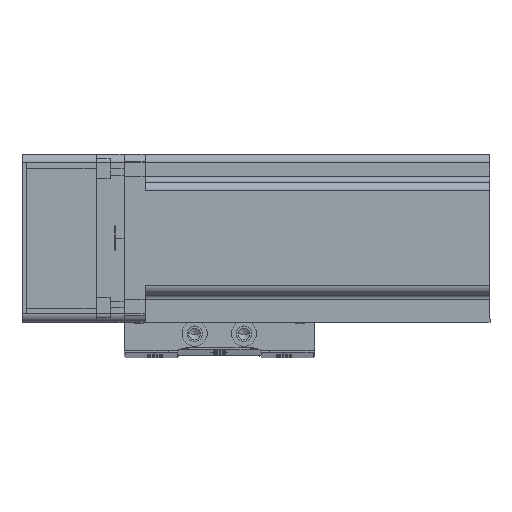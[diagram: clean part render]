
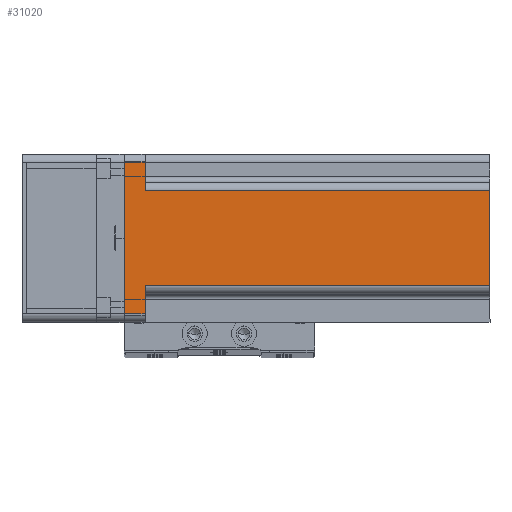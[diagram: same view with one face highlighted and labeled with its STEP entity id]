
A CAD part, top view. The second image highlights one B-rep face of the part: STEP entity #31020.
In plain terms, the highlighted planar face has unit normal (0, 0, 1) as drawn and (0, 1, 0) by its records, which use the part's own axes.
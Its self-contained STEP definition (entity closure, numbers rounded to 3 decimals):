
#77 = CARTESIAN_POINT ( 'NONE',  ( -17., 30., 130.7 ) ) ;
#607 = VERTEX_POINT ( 'NONE', #25944 ) ;
#916 = CARTESIAN_POINT ( 'NONE',  ( 27., 30., 130.7 ) ) ;
#1010 = DIRECTION ( 'NONE',  ( 0., -1., 0. ) ) ;
#1851 = VERTEX_POINT ( 'NONE', #35242 ) ;
#4163 = ORIENTED_EDGE ( 'NONE', *, *, #53394, .F. ) ;
#5723 = EDGE_LOOP ( 'NONE', ( #41719, #8354, #4163, #12482, #11422, #51591, #10312, #31493 ) ) ;
#8161 = DIRECTION ( 'NONE',  ( 1., 0., 0. ) ) ;
#8354 = ORIENTED_EDGE ( 'NONE', *, *, #46168, .T. ) ;
#8871 = EDGE_CURVE ( 'NONE', #46343, #40522, #55481, .T. ) ;
#9734 = VECTOR ( 'NONE', #24550, 1000. ) ;
#9810 = PLANE ( 'NONE',  #13856 ) ;
#10312 = ORIENTED_EDGE ( 'NONE', *, *, #53348, .T. ) ;
#11265 = EDGE_CURVE ( 'NONE', #49778, #22059, #37956, .T. ) ;
#11422 = ORIENTED_EDGE ( 'NONE', *, *, #40756, .F. ) ;
#12482 = ORIENTED_EDGE ( 'NONE', *, *, #11265, .T. ) ;
#13441 = CARTESIAN_POINT ( 'NONE',  ( 17., 30., 130.7 ) ) ;
#13856 = AXIS2_PLACEMENT_3D ( 'NONE', #27701, #1010, #32133 ) ;
#14310 = VECTOR ( 'NONE', #28470, 1000. ) ;
#17125 = DIRECTION ( 'NONE',  ( -1., 0., 0. ) ) ;
#18017 = CARTESIAN_POINT ( 'NONE',  ( -27., 30., 7.5 ) ) ;
#19749 = CARTESIAN_POINT ( 'NONE',  ( 27., 30., 7.5 ) ) ;
#20066 = CARTESIAN_POINT ( 'NONE',  ( -27., 30., 130.7 ) ) ;
#21290 = DIRECTION ( 'NONE',  ( -1., 0., 0. ) ) ;
#21472 = LINE ( 'NONE', #52839, #42219 ) ;
#22059 = VERTEX_POINT ( 'NONE', #54765 ) ;
#22458 = LINE ( 'NONE', #47858, #56420 ) ;
#23122 = LINE ( 'NONE', #34786, #46706 ) ;
#23437 = CARTESIAN_POINT ( 'NONE',  ( 27., 30., 0. ) ) ;
#24363 = VERTEX_POINT ( 'NONE', #18017 ) ;
#24550 = DIRECTION ( 'NONE',  ( 0., 0., 1. ) ) ;
#24886 = LINE ( 'NONE', #31079, #36640 ) ;
#25944 = CARTESIAN_POINT ( 'NONE',  ( -17., 30., 130.7 ) ) ;
#26466 = DIRECTION ( 'NONE',  ( -1., 0., 0. ) ) ;
#26946 = DIRECTION ( 'NONE',  ( 0., 0., 1. ) ) ;
#27701 = CARTESIAN_POINT ( 'NONE',  ( 30., 30., 130.7 ) ) ;
#28470 = DIRECTION ( 'NONE',  ( 0., 0., -1. ) ) ;
#30254 = EDGE_CURVE ( 'NONE', #24363, #1851, #23122, .T. ) ;
#31020 = ADVANCED_FACE ( 'NONE', ( #33361 ), #9810, .F. ) ;
#31079 = CARTESIAN_POINT ( 'NONE',  ( 30., 30., 130.7 ) ) ;
#31493 = ORIENTED_EDGE ( 'NONE', *, *, #34653, .T. ) ;
#32133 = DIRECTION ( 'NONE',  ( 1., 0., 0. ) ) ;
#33361 = FACE_OUTER_BOUND ( 'NONE', #5723, .T. ) ;
#34653 = EDGE_CURVE ( 'NONE', #48718, #24363, #56982, .T. ) ;
#34786 = CARTESIAN_POINT ( 'NONE',  ( -20., 30., 7.5 ) ) ;
#35242 = CARTESIAN_POINT ( 'NONE',  ( -17., 30., 7.5 ) ) ;
#36490 = DIRECTION ( 'NONE',  ( 0., 0., -1. ) ) ;
#36640 = VECTOR ( 'NONE', #26466, 1000. ) ;
#37178 = CARTESIAN_POINT ( 'NONE',  ( 17., 30., 130.7 ) ) ;
#37956 = LINE ( 'NONE', #37178, #14310 ) ;
#40522 = VERTEX_POINT ( 'NONE', #23437 ) ;
#40756 = EDGE_CURVE ( 'NONE', #46343, #22059, #22458, .T. ) ;
#41719 = ORIENTED_EDGE ( 'NONE', *, *, #30254, .T. ) ;
#42219 = VECTOR ( 'NONE', #17125, 1000. ) ;
#43707 = VECTOR ( 'NONE', #36490, 1000. ) ;
#44855 = LINE ( 'NONE', #77, #53845 ) ;
#46168 = EDGE_CURVE ( 'NONE', #1851, #607, #44855, .T. ) ;
#46343 = VERTEX_POINT ( 'NONE', #19749 ) ;
#46706 = VECTOR ( 'NONE', #8161, 1000. ) ;
#47858 = CARTESIAN_POINT ( 'NONE',  ( 20., 30., 7.5 ) ) ;
#48718 = VERTEX_POINT ( 'NONE', #57444 ) ;
#49778 = VERTEX_POINT ( 'NONE', #13441 ) ;
#51591 = ORIENTED_EDGE ( 'NONE', *, *, #8871, .T. ) ;
#52839 = CARTESIAN_POINT ( 'NONE',  ( 30., 30., 0. ) ) ;
#53348 = EDGE_CURVE ( 'NONE', #40522, #48718, #21472, .T. ) ;
#53394 = EDGE_CURVE ( 'NONE', #49778, #607, #24886, .T. ) ;
#53845 = VECTOR ( 'NONE', #26946, 1000. ) ;
#54765 = CARTESIAN_POINT ( 'NONE',  ( 17., 30., 7.5 ) ) ;
#55481 = LINE ( 'NONE', #916, #43707 ) ;
#56420 = VECTOR ( 'NONE', #21290, 1000. ) ;
#56982 = LINE ( 'NONE', #20066, #9734 ) ;
#57444 = CARTESIAN_POINT ( 'NONE',  ( -27., 30., 0. ) ) ;
